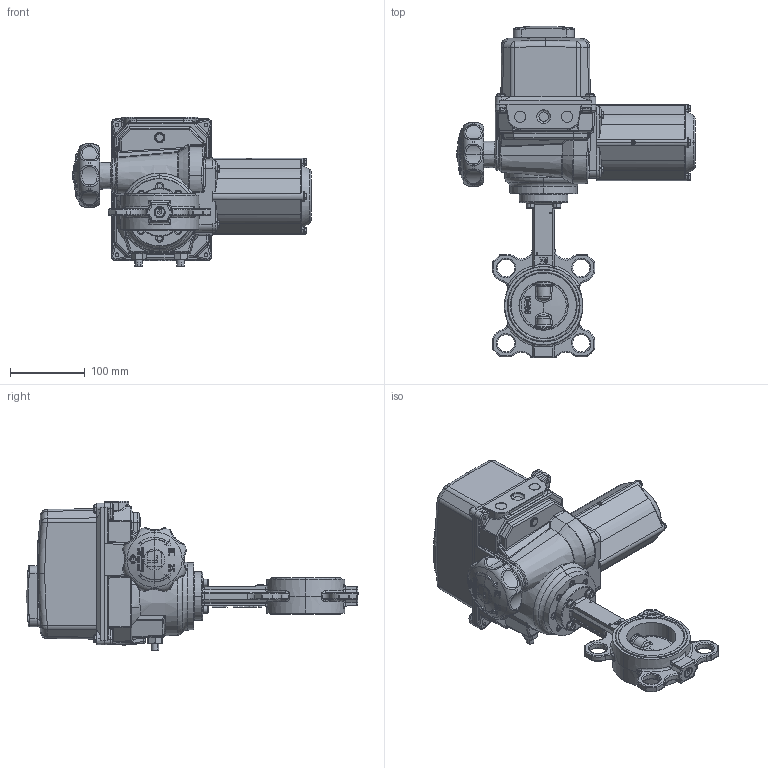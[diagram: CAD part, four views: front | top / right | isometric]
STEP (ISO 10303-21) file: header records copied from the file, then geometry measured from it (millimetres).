
FILE_DESCRIPTION (( 'STEP AP203' ), '1' );
FILE_NAME ('VPI-B04 DN65.step', '2016-09-29T14:38:03', ( 'TECOFI' ), ( '' ), 'SwSTEP 2.0', 'SolidWorks 2014', '' );
FILE_SCHEMA (( 'CONFIG_CONTROL_DESIGN' ));
Products named in the file (1): VPI-B04 DN65
Bounding box: 319.25 x 444.8 x 199.8 mm (x, y, z)
Volume: 5324924.4 mm3; surface area: 336480 mm2
Topology: 14 solids, 14 shells, 2994 faces, 7633 edges, 4783 vertices
Faces by surface type: plane 1340, bspline 727, cylinder 556, cone 133, torus 130, sphere 108
Entity records: 129424 total; most frequent: CARTESIAN_POINT 62564, ORIENTED_EDGE 15116, DIRECTION 12233, EDGE_CURVE 7558, VERTEX_POINT 4783, AXIS2_PLACEMENT_3D 4404, LINE 3425, VECTOR 3425
